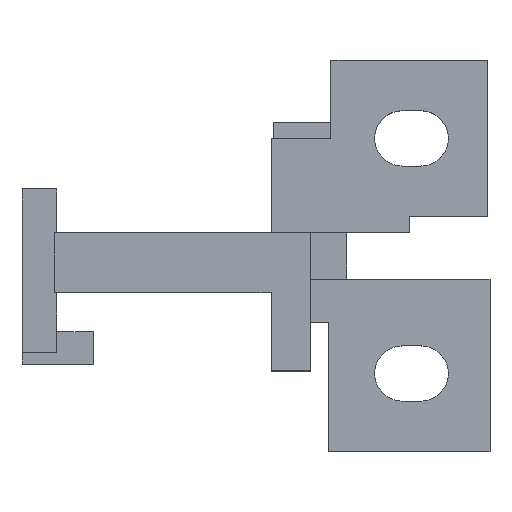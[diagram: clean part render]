
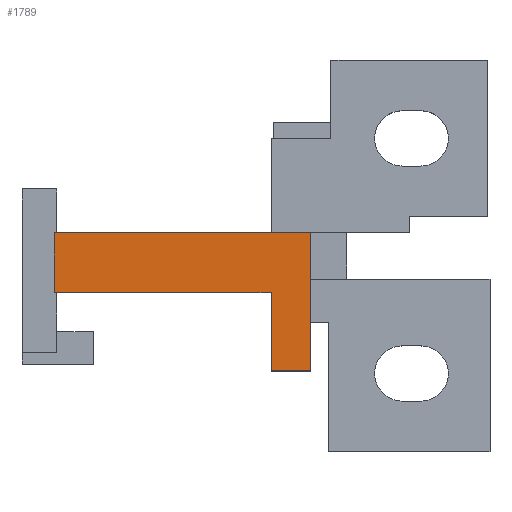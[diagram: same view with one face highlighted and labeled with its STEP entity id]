
A CAD part, top view. The second image highlights one B-rep face of the part: STEP entity #1789.
In plain terms, the highlighted planar face has unit normal (0, 0, 1).
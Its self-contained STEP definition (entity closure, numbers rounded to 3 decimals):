
#72 = PLANE('',#73);
#73 = AXIS2_PLACEMENT_3D('',#74,#75,#76);
#74 = CARTESIAN_POINT('',(18.,78.628,11.678));
#75 = DIRECTION('',(-1.,-0.,-0.));
#76 = DIRECTION('',(0.,0.,-1.));
#789 = EDGE_CURVE('',#790,#792,#794,.T.);
#790 = VERTEX_POINT('',#791);
#791 = CARTESIAN_POINT('',(18.,74.9,17.15));
#792 = VERTEX_POINT('',#793);
#793 = CARTESIAN_POINT('',(18.,78.3,17.15));
#794 = SURFACE_CURVE('',#795,(#799,#806),.PCURVE_S1.);
#795 = LINE('',#796,#797);
#796 = CARTESIAN_POINT('',(18.,74.9,17.15));
#797 = VECTOR('',#798,1.);
#798 = DIRECTION('',(0.,1.,0.));
#799 = PCURVE('',#72,#800);
#800 = DEFINITIONAL_REPRESENTATION('',(#801),#805);
#801 = LINE('',#802,#803);
#802 = CARTESIAN_POINT('',(-5.472,3.728));
#803 = VECTOR('',#804,1.);
#804 = DIRECTION('',(0.,-1.));
#805 = ( GEOMETRIC_REPRESENTATION_CONTEXT(2) 
PARAMETRIC_REPRESENTATION_CONTEXT() REPRESENTATION_CONTEXT('2D SPACE',''
  ) );
#806 = PCURVE('',#807,#812);
#807 = PLANE('',#808);
#808 = AXIS2_PLACEMENT_3D('',#809,#810,#811);
#809 = CARTESIAN_POINT('',(15.082,78.835,17.15));
#810 = DIRECTION('',(0.,0.,1.));
#811 = DIRECTION('',(1.,0.,0.));
#812 = DEFINITIONAL_REPRESENTATION('',(#813),#817);
#813 = LINE('',#814,#815);
#814 = CARTESIAN_POINT('',(2.918,-3.935));
#815 = VECTOR('',#816,1.);
#816 = DIRECTION('',(0.,1.));
#817 = ( GEOMETRIC_REPRESENTATION_CONTEXT(2) 
PARAMETRIC_REPRESENTATION_CONTEXT() REPRESENTATION_CONTEXT('2D SPACE',''
  ) );
#835 = PLANE('',#836);
#836 = AXIS2_PLACEMENT_3D('',#837,#838,#839);
#837 = CARTESIAN_POINT('',(12.951,78.3,16.056));
#838 = DIRECTION('',(-0.,-1.,0.));
#839 = DIRECTION('',(0.,0.,-1.));
#1123 = PLANE('',#1124);
#1124 = AXIS2_PLACEMENT_3D('',#1125,#1126,#1127);
#1125 = CARTESIAN_POINT('',(18.85,74.9,12.875));
#1126 = DIRECTION('',(-0.,-1.,-0.));
#1127 = DIRECTION('',(0.,0.,-1.));
#1789 = ADVANCED_FACE('',(#1790),#807,.T.);
#1790 = FACE_BOUND('',#1791,.T.);
#1791 = EDGE_LOOP('',(#1792,#1822,#1849,#1870,#1871,#1894));
#1792 = ORIENTED_EDGE('',*,*,#1793,.F.);
#1793 = EDGE_CURVE('',#1794,#1796,#1798,.T.);
#1794 = VERTEX_POINT('',#1795);
#1795 = CARTESIAN_POINT('',(8.595,80.9,17.15));
#1796 = VERTEX_POINT('',#1797);
#1797 = CARTESIAN_POINT('',(19.7,80.9,17.15));
#1798 = SURFACE_CURVE('',#1799,(#1803,#1810),.PCURVE_S1.);
#1799 = LINE('',#1800,#1801);
#1800 = CARTESIAN_POINT('',(7.216,80.9,17.15));
#1801 = VECTOR('',#1802,1.);
#1802 = DIRECTION('',(1.,0.,0.));
#1803 = PCURVE('',#807,#1804);
#1804 = DEFINITIONAL_REPRESENTATION('',(#1805),#1809);
#1805 = LINE('',#1806,#1807);
#1806 = CARTESIAN_POINT('',(-7.867,2.065));
#1807 = VECTOR('',#1808,1.);
#1808 = DIRECTION('',(1.,0.));
#1809 = ( GEOMETRIC_REPRESENTATION_CONTEXT(2) 
PARAMETRIC_REPRESENTATION_CONTEXT() REPRESENTATION_CONTEXT('2D SPACE',''
  ) );
#1810 = PCURVE('',#1811,#1816);
#1811 = PLANE('',#1812);
#1812 = AXIS2_PLACEMENT_3D('',#1813,#1814,#1815);
#1813 = CARTESIAN_POINT('',(13.771,80.9,16.086));
#1814 = DIRECTION('',(0.,1.,0.));
#1815 = DIRECTION('',(0.,0.,1.));
#1816 = DEFINITIONAL_REPRESENTATION('',(#1817),#1821);
#1817 = LINE('',#1818,#1819);
#1818 = CARTESIAN_POINT('',(1.064,-6.555));
#1819 = VECTOR('',#1820,1.);
#1820 = DIRECTION('',(0.,1.));
#1821 = ( GEOMETRIC_REPRESENTATION_CONTEXT(2) 
PARAMETRIC_REPRESENTATION_CONTEXT() REPRESENTATION_CONTEXT('2D SPACE',''
  ) );
#1822 = ORIENTED_EDGE('',*,*,#1823,.T.);
#1823 = EDGE_CURVE('',#1794,#1824,#1826,.T.);
#1824 = VERTEX_POINT('',#1825);
#1825 = CARTESIAN_POINT('',(8.595,78.3,17.15));
#1826 = SURFACE_CURVE('',#1827,(#1831,#1838),.PCURVE_S1.);
#1827 = LINE('',#1828,#1829);
#1828 = CARTESIAN_POINT('',(8.595,39.15,17.15));
#1829 = VECTOR('',#1830,1.);
#1830 = DIRECTION('',(0.,-1.,0.));
#1831 = PCURVE('',#807,#1832);
#1832 = DEFINITIONAL_REPRESENTATION('',(#1833),#1837);
#1833 = LINE('',#1834,#1835);
#1834 = CARTESIAN_POINT('',(-6.487,-39.685));
#1835 = VECTOR('',#1836,1.);
#1836 = DIRECTION('',(0.,-1.));
#1837 = ( GEOMETRIC_REPRESENTATION_CONTEXT(2) 
PARAMETRIC_REPRESENTATION_CONTEXT() REPRESENTATION_CONTEXT('2D SPACE',''
  ) );
#1838 = PCURVE('',#1839,#1844);
#1839 = PLANE('',#1840);
#1840 = AXIS2_PLACEMENT_3D('',#1841,#1842,#1843);
#1841 = CARTESIAN_POINT('',(8.595,78.3,14.261));
#1842 = DIRECTION('',(1.,0.,0.));
#1843 = DIRECTION('',(0.,0.,1.));
#1844 = DEFINITIONAL_REPRESENTATION('',(#1845),#1848);
#1845 = B_SPLINE_CURVE_WITH_KNOTS('',1,(#1846,#1847),.UNSPECIFIED.,.F.,
  .F.,(2,2),(-41.75,-39.15),.PIECEWISE_BEZIER_KNOTS.);
#1846 = CARTESIAN_POINT('',(2.889,-2.6));
#1847 = CARTESIAN_POINT('',(2.889,0.));
#1848 = ( GEOMETRIC_REPRESENTATION_CONTEXT(2) 
PARAMETRIC_REPRESENTATION_CONTEXT() REPRESENTATION_CONTEXT('2D SPACE',''
  ) );
#1849 = ORIENTED_EDGE('',*,*,#1850,.F.);
#1850 = EDGE_CURVE('',#792,#1824,#1851,.T.);
#1851 = SURFACE_CURVE('',#1852,(#1856,#1863),.PCURVE_S1.);
#1852 = LINE('',#1853,#1854);
#1853 = CARTESIAN_POINT('',(6.463,78.3,17.15));
#1854 = VECTOR('',#1855,1.);
#1855 = DIRECTION('',(-1.,0.,0.));
#1856 = PCURVE('',#807,#1857);
#1857 = DEFINITIONAL_REPRESENTATION('',(#1858),#1862);
#1858 = LINE('',#1859,#1860);
#1859 = CARTESIAN_POINT('',(-8.619,-0.535));
#1860 = VECTOR('',#1861,1.);
#1861 = DIRECTION('',(-1.,0.));
#1862 = ( GEOMETRIC_REPRESENTATION_CONTEXT(2) 
PARAMETRIC_REPRESENTATION_CONTEXT() REPRESENTATION_CONTEXT('2D SPACE',''
  ) );
#1863 = PCURVE('',#835,#1864);
#1864 = DEFINITIONAL_REPRESENTATION('',(#1865),#1869);
#1865 = LINE('',#1866,#1867);
#1866 = CARTESIAN_POINT('',(-1.094,-6.488));
#1867 = VECTOR('',#1868,1.);
#1868 = DIRECTION('',(0.,-1.));
#1869 = ( GEOMETRIC_REPRESENTATION_CONTEXT(2) 
PARAMETRIC_REPRESENTATION_CONTEXT() REPRESENTATION_CONTEXT('2D SPACE',''
  ) );
#1870 = ORIENTED_EDGE('',*,*,#789,.F.);
#1871 = ORIENTED_EDGE('',*,*,#1872,.T.);
#1872 = EDGE_CURVE('',#790,#1873,#1875,.T.);
#1873 = VERTEX_POINT('',#1874);
#1874 = CARTESIAN_POINT('',(19.7,74.9,17.15));
#1875 = SURFACE_CURVE('',#1876,(#1880,#1887),.PCURVE_S1.);
#1876 = LINE('',#1877,#1878);
#1877 = CARTESIAN_POINT('',(18.,74.9,17.15));
#1878 = VECTOR('',#1879,1.);
#1879 = DIRECTION('',(1.,0.,0.));
#1880 = PCURVE('',#807,#1881);
#1881 = DEFINITIONAL_REPRESENTATION('',(#1882),#1886);
#1882 = LINE('',#1883,#1884);
#1883 = CARTESIAN_POINT('',(2.918,-3.935));
#1884 = VECTOR('',#1885,1.);
#1885 = DIRECTION('',(1.,0.));
#1886 = ( GEOMETRIC_REPRESENTATION_CONTEXT(2) 
PARAMETRIC_REPRESENTATION_CONTEXT() REPRESENTATION_CONTEXT('2D SPACE',''
  ) );
#1887 = PCURVE('',#1123,#1888);
#1888 = DEFINITIONAL_REPRESENTATION('',(#1889),#1893);
#1889 = LINE('',#1890,#1891);
#1890 = CARTESIAN_POINT('',(-4.275,-0.85));
#1891 = VECTOR('',#1892,1.);
#1892 = DIRECTION('',(0.,1.));
#1893 = ( GEOMETRIC_REPRESENTATION_CONTEXT(2) 
PARAMETRIC_REPRESENTATION_CONTEXT() REPRESENTATION_CONTEXT('2D SPACE',''
  ) );
#1894 = ORIENTED_EDGE('',*,*,#1895,.T.);
#1895 = EDGE_CURVE('',#1873,#1796,#1896,.T.);
#1896 = SURFACE_CURVE('',#1897,(#1901,#1908),.PCURVE_S1.);
#1897 = LINE('',#1898,#1899);
#1898 = CARTESIAN_POINT('',(19.7,74.9,17.15));
#1899 = VECTOR('',#1900,1.);
#1900 = DIRECTION('',(0.,1.,0.));
#1901 = PCURVE('',#807,#1902);
#1902 = DEFINITIONAL_REPRESENTATION('',(#1903),#1907);
#1903 = LINE('',#1904,#1905);
#1904 = CARTESIAN_POINT('',(4.618,-3.935));
#1905 = VECTOR('',#1906,1.);
#1906 = DIRECTION('',(0.,1.));
#1907 = ( GEOMETRIC_REPRESENTATION_CONTEXT(2) 
PARAMETRIC_REPRESENTATION_CONTEXT() REPRESENTATION_CONTEXT('2D SPACE',''
  ) );
#1908 = PCURVE('',#1909,#1914);
#1909 = PLANE('',#1910);
#1910 = AXIS2_PLACEMENT_3D('',#1911,#1912,#1913);
#1911 = CARTESIAN_POINT('',(19.7,76.918,13.778));
#1912 = DIRECTION('',(1.,0.,0.));
#1913 = DIRECTION('',(0.,0.,1.));
#1914 = DEFINITIONAL_REPRESENTATION('',(#1915),#1919);
#1915 = LINE('',#1916,#1917);
#1916 = CARTESIAN_POINT('',(3.372,2.018));
#1917 = VECTOR('',#1918,1.);
#1918 = DIRECTION('',(0.,-1.));
#1919 = ( GEOMETRIC_REPRESENTATION_CONTEXT(2) 
PARAMETRIC_REPRESENTATION_CONTEXT() REPRESENTATION_CONTEXT('2D SPACE',''
  ) );
